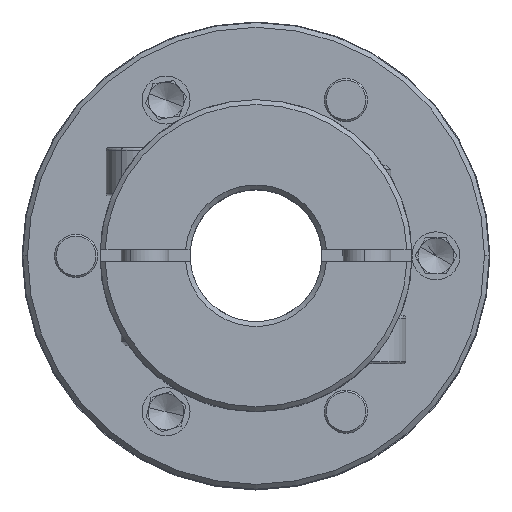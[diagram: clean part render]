
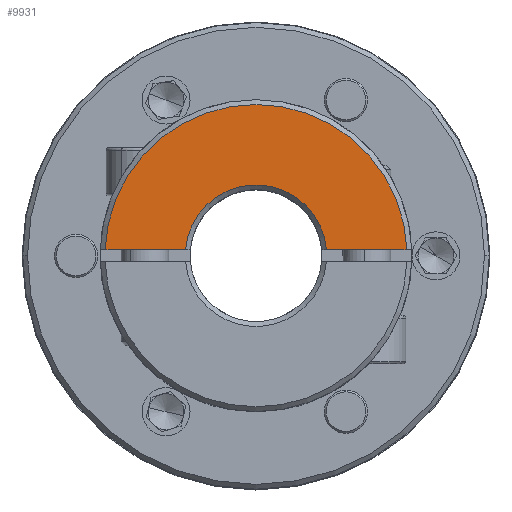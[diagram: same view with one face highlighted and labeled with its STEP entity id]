
A CAD part, top view. The second image highlights one B-rep face of the part: STEP entity #9931.
In plain terms, the highlighted planar face has unit normal (0, 0, 1).
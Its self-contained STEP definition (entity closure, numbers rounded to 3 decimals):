
#696 = CARTESIAN_POINT ( 'NONE',  ( -39., 1., 33.85 ) ) ;
#842 = FACE_OUTER_BOUND ( 'NONE', #6844, .T. ) ;
#956 = EDGE_CURVE ( 'NONE', #2699, #18598, #14814, .T. ) ;
#1361 = DIRECTION ( 'NONE',  ( 1., 0., 0. ) ) ;
#2295 = LINE ( 'NONE', #7050, #19819 ) ;
#2569 = CARTESIAN_POINT ( 'NONE',  ( -25.18, 1., 33.85 ) ) ;
#2699 = VERTEX_POINT ( 'NONE', #2569 ) ;
#2710 = VERTEX_POINT ( 'NONE', #5868 ) ;
#3973 = AXIS2_PLACEMENT_3D ( 'NONE', #10544, #12404, #9193 ) ;
#4454 = CARTESIAN_POINT ( 'NONE',  ( 0., 0., 33.85 ) ) ;
#4961 = CIRCLE ( 'NONE', #3973, 25.2 ) ;
#5379 = AXIS2_PLACEMENT_3D ( 'NONE', #4454, #14145, #1361 ) ;
#5399 = ORIENTED_EDGE ( 'NONE', *, *, #956, .T. ) ;
#5868 = CARTESIAN_POINT ( 'NONE',  ( 25.18, 1., 33.85 ) ) ;
#6844 = EDGE_LOOP ( 'NONE', ( #15957, #5399, #10836, #19745 ) ) ;
#6985 = DIRECTION ( 'NONE',  ( 1., 0., 0. ) ) ;
#7050 = CARTESIAN_POINT ( 'NONE',  ( -39., 1., 33.85 ) ) ;
#7249 = DIRECTION ( 'NONE',  ( 1., 0., 0. ) ) ;
#8463 = EDGE_CURVE ( 'NONE', #2710, #2699, #4961, .T. ) ;
#9193 = DIRECTION ( 'NONE',  ( 1., 0., 0. ) ) ;
#9931 = ADVANCED_FACE ( 'NONE', ( #842 ), #13430, .T. ) ;
#10544 = CARTESIAN_POINT ( 'NONE',  ( 0., 0., 33.85 ) ) ;
#10836 = ORIENTED_EDGE ( 'NONE', *, *, #10885, .T. ) ;
#10885 = EDGE_CURVE ( 'NONE', #18598, #17114, #11656, .T. ) ;
#11023 = CARTESIAN_POINT ( 'NONE',  ( 11.758, 1., 33.85 ) ) ;
#11466 = DIRECTION ( 'NONE',  ( 1., 0., 0. ) ) ;
#11656 = CIRCLE ( 'NONE', #5379, 11.8 ) ;
#11681 = AXIS2_PLACEMENT_3D ( 'NONE', #19698, #16192, #11466 ) ;
#12404 = DIRECTION ( 'NONE',  ( 0., 0., 1. ) ) ;
#13430 = PLANE ( 'NONE',  #11681 ) ;
#13501 = EDGE_CURVE ( 'NONE', #17114, #2710, #2295, .T. ) ;
#14145 = DIRECTION ( 'NONE',  ( 0., 0., -1. ) ) ;
#14814 = LINE ( 'NONE', #696, #18293 ) ;
#15957 = ORIENTED_EDGE ( 'NONE', *, *, #8463, .T. ) ;
#16192 = DIRECTION ( 'NONE',  ( 0., 0., 1. ) ) ;
#17114 = VERTEX_POINT ( 'NONE', #11023 ) ;
#18293 = VECTOR ( 'NONE', #6985, 1000. ) ;
#18598 = VERTEX_POINT ( 'NONE', #19470 ) ;
#19470 = CARTESIAN_POINT ( 'NONE',  ( -11.758, 1., 33.85 ) ) ;
#19698 = CARTESIAN_POINT ( 'NONE',  ( 0., 0., 33.85 ) ) ;
#19745 = ORIENTED_EDGE ( 'NONE', *, *, #13501, .T. ) ;
#19819 = VECTOR ( 'NONE', #7249, 1000. ) ;
